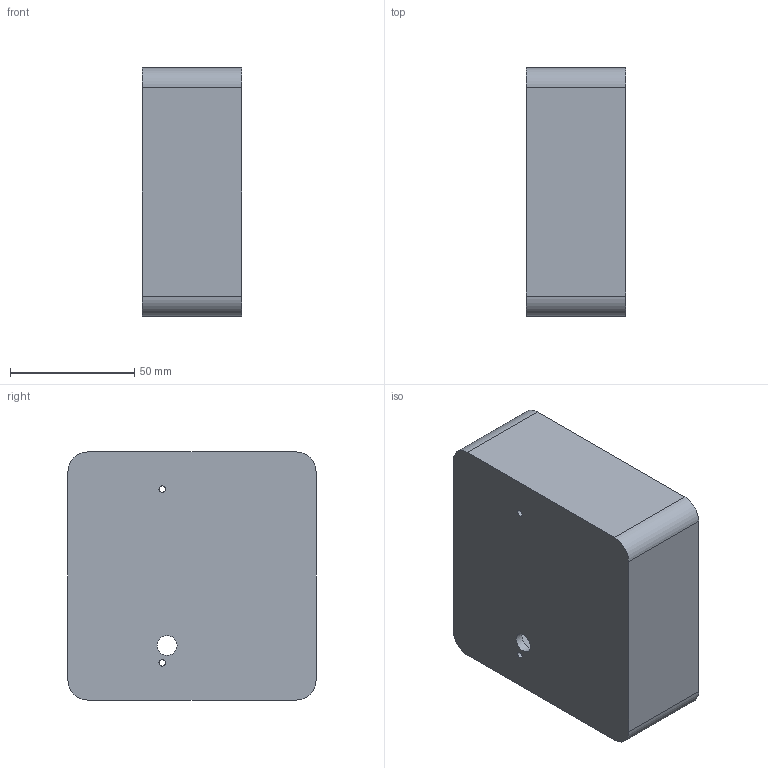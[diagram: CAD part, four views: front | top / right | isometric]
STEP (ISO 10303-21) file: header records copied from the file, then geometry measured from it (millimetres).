
FILE_DESCRIPTION(('Open CASCADE Model'),'2;1');
FILE_NAME('Open CASCADE Shape Model','2026-10-07T22:00:03',('Author'),( 'Open CASCADE'),'Open CASCADE STEP processor 7.9','Open CASCADE 7.9' ,'Unknown');
FILE_SCHEMA(('AUTOMOTIVE_DESIGN { 1 0 10303 214 1 1 1 1 }'));
Length unit declared in the file: millimetre
Products named in the file (1): Open CASCADE STEP translator 7.9 4
Bounding box: 40 x 100 x 100 mm (x, y, z)
Volume: 80497.7 mm3; surface area: 50863.5 mm2
Topology: 1 solids, 1 shells, 38 faces, 93 edges, 62 vertices
Faces by surface type: plane 19, cylinder 19
Full cylindrical faces by diameter (mm): 2.6 x6, 8 x1
Entity records: 2373 total; most frequent: CARTESIAN_POINT 490, DIRECTION 350, ORIENTED_EDGE 186, PCURVE 186, DEFINITIONAL_REPRESENTATION 186, LINE 171, VECTOR 171, EDGE_CURVE 93
